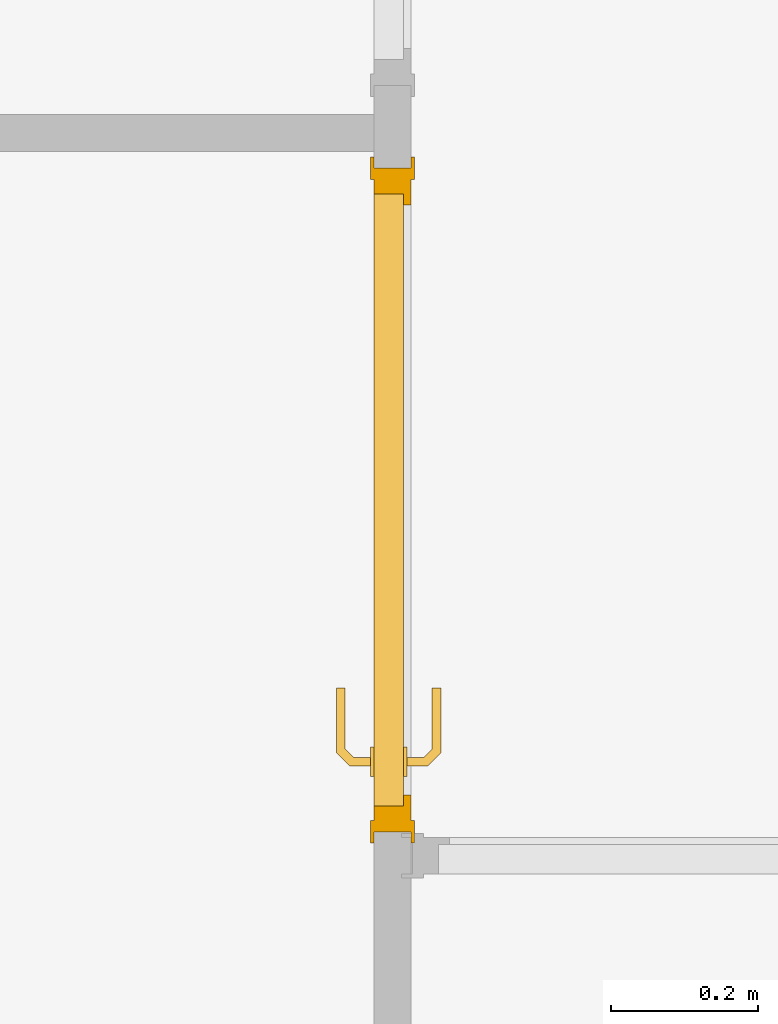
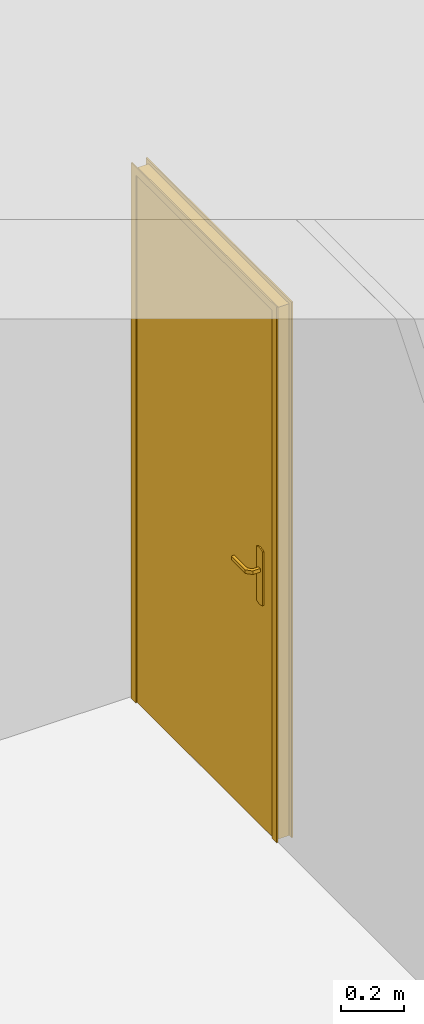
# One storey, part 8 of 14: 1 door.
"""IFC2X3 building model written with IfcOpenShell, lengths in millimetres."""

from ifc_helpers import new_model, entity, si_unit, converted_unit, direction, frame, origin, origin_with_axes, place, context, project, spatial, faceted_brep, element, save


model = new_model("IFC2X3")

# Units and contexts
model_context = context("Model", 3, precision=1e-05, world=origin(), true_north=direction((0.0, 1.0, 0.0)))
ifc_project = project(units=[si_unit("LENGTHUNIT", "METRE", prefix="MILLI"), si_unit("AREAUNIT", "SQUARE_METRE"), si_unit("VOLUMEUNIT", "CUBIC_METRE"), converted_unit("PLANEANGLEUNIT", "DEGREE", entity("IfcPlaneAngleMeasure", 0.01745), si_unit("PLANEANGLEUNIT", "RADIAN"), dimensions=[0, 0, 0, 0, 0, 0, 0]), si_unit("SOLIDANGLEUNIT", "STERADIAN"), si_unit("MASSUNIT", "GRAM"), si_unit("TIMEUNIT", "SECOND"), si_unit("THERMODYNAMICTEMPERATUREUNIT", "DEGREE_CELSIUS"), si_unit("LUMINOUSINTENSITYUNIT", "LUMEN")], contexts=[model_context])

# Site, building, storey
placement = place(None, origin_with_axes())
site_placement = place(placement, frame((11636.08881703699, 2815.7442167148, 4.768371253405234e-06), z_axis=(0.0, 0.0, 1.0), x_axis=(1.0, 0.0, 0.0)))
site = spatial("IfcSite", under=ifc_project, at=site_placement, Name="Surface", CompositionType="ELEMENT")
building_placement = place(placement, origin_with_axes())
building = spatial("IfcBuilding", under=site, at=building_placement, Name="Default Building", CompositionType="ELEMENT")
storey_placement = place(building_placement, origin_with_axes())
storey = spatial("IfcBuildingStorey", under=building, at=storey_placement, Name="Plan étage", CompositionType="ELEMENT", Elevation=0.0)

# Door
door_placement = place(storey_placement, frame((11636.08881703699, 2815.7442167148, 4.768371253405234e-06), z_axis=(0.0, 0.0, 1.0), x_axis=(1.0, 0.0, 0.0)))
element("IfcDoor", 1, at=door_placement, inside=storey, Name="IfcDoor - Int. Simple:PP (0.83m x 2.04m)", context=model_context, shape_type="Brep", body=[
    faceted_brep([(-1711.088818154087, 486.7557809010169, 2740.000042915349), (-1706.088819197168, 456.755779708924, 2740.000042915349), (-1711.088818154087, 456.755779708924, 2740.000042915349), (-1706.088819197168, 486.7557809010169, 2740.000042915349), (-1711.088818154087, 1356.755785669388, 2740.000042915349), (-1706.088819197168, 1386.755786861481, 2740.000042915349), (-1706.088819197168, 1356.755785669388, 2740.000042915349), (-1711.088818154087, 1386.755786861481, 2740.000042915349), (-1711.088818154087, 486.7557809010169, 4799.99998569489), (-1706.088819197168, 1356.755785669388, 4799.99998569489), (-1706.088819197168, 486.7557809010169, 4799.99998569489), (-1711.088818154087, 1356.755785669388, 4799.99998569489), (-1706.088819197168, 456.755779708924, 4829.99995708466), (-1711.088818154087, 1386.755786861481, 4829.99995708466), (-1711.088818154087, 456.755779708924, 4829.99995708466), (-1706.088819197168, 1386.755786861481, 4829.99995708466), (-1656.08881845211, 486.7557809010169, 4799.99998569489), (-1651.088819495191, 1356.755785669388, 4799.99998569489), (-1651.088819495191, 486.7557809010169, 4799.99998569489), (-1656.08881845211, 1356.755785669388, 4799.99998569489), (-1651.088819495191, 456.755779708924, 4829.99995708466), (-1656.08881845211, 1386.755786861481, 4829.99995708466), (-1656.08881845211, 456.755779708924, 4829.99995708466), (-1651.088819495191, 1386.755786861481, 4829.99995708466), (-1656.08881845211, 1386.755786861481, 2740.000042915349), (-1651.088819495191, 1386.755786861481, 2740.000042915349), (-1651.088819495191, 1356.755785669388, 2740.000042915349), (-1656.08881845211, 1356.755785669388, 2740.000042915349), (-1656.08881845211, 486.7557809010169, 2740.000042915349), (-1651.088819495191, 486.7557809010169, 2740.000042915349), (-1651.088819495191, 456.755779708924, 2740.000042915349), (-1656.08881845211, 456.755779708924, 2740.000042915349), (-1706.088819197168, 506.7557916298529, 4780.000004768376), (-1666.088819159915, 1336.755774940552, 4780.000004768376), (-1666.088819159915, 506.7557916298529, 4780.000004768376), (-1706.088819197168, 1336.755774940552, 4780.000004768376), (-1666.088819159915, 521.7557773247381, 4765.000019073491), (-1656.08881845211, 1321.755789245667, 4765.000019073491), (-1656.08881845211, 521.7557773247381, 4765.000019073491), (-1666.088819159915, 1321.755789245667, 4765.000019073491), (-1656.08881845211, 471.7557952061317, 4814.999971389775), (-1706.088819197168, 1371.755771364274, 4814.999971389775), (-1706.088819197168, 471.7557952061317, 4814.999971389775), (-1656.08881845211, 1371.755771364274, 4814.999971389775), (-1666.088819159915, 1336.755774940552, 2740.000042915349), (-1706.088819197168, 1336.755774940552, 2740.000042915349), (-1656.08881845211, 1321.755789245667, 2740.000042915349), (-1666.088819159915, 1321.755789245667, 2740.000042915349), (-1656.08881845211, 1371.755771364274, 2740.000042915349), (-1706.088819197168, 1371.755771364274, 2740.000042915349), (-1706.088819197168, 506.7557916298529, 2740.000042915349), (-1706.088819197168, 471.7557952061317, 2740.000042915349), (-1666.088819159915, 506.7557916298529, 2740.000042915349), (-1666.088819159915, 521.7557773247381, 2740.000042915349), (-1656.08881845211, 521.7557773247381, 2740.000042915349), (-1656.08881845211, 471.7557952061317, 2740.000042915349), (-1666.088819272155, 506.7557916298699, 4779.999980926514), (-1706.088818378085, 506.7557916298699, 2740.000019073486), (-1666.088819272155, 506.7557916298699, 2740.000019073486), (-1706.088818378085, 506.7557916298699, 4779.999980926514), (-1706.088818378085, 1336.755774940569, 2740.000019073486), (-1666.088819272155, 1336.755774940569, 2740.000019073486), (-1706.088818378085, 1336.755774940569, 4779.999980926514), (-1666.088819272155, 1336.755774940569, 4779.999980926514), (-1623.14362793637, 582.5946902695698, 3732.219558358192), (-1621.118336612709, 624.698127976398, 3732.121313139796), (-1619.093037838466, 580.9168772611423, 3732.219558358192), (-1615.118331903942, 619.2009871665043, 3732.999999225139), (-1627.118333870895, 625.5213035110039, 3732.999999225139), (-1623.14362793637, 666.801565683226, 3732.219558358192), (-1619.093037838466, 666.801565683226, 3732.219558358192), (-1627.118333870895, 666.801565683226, 3732.999999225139), (-1627.118333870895, 584.2410655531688, 3732.999999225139), (-1615.118331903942, 579.2705019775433, 3732.999999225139), (-1615.118331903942, 666.801565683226, 3732.999999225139), (-1615.118331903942, 579.2705019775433, 3747.000001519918), (-1615.118331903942, 619.2009890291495, 3747.000001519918), (-1615.118331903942, 666.801565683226, 3747.000001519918), (-1623.14362793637, 666.801565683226, 3747.780442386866), (-1621.118336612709, 624.698127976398, 3747.878685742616), (-1619.093037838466, 666.801565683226, 3747.780442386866), (-1627.118333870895, 625.5213165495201, 3747.000001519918), (-1623.14362793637, 582.5946902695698, 3747.780442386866), (-1619.093037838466, 580.9168772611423, 3747.780442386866), (-1627.118333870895, 666.801565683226, 3747.000001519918), (-1627.118333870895, 584.2410655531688, 3747.000001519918), (-1636.957239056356, 568.7810828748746, 3732.219558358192), (-1638.60361247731, 572.7557850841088, 3732.999999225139), (-1633.633050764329, 560.7557831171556, 3732.999999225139), (-1635.279427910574, 564.7304853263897, 3732.219558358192), (-1633.633050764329, 560.7557831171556, 3747.000001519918), (-1635.279427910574, 564.7304853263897, 3747.780442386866), (-1638.60361247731, 572.7557850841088, 3747.000001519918), (-1636.957239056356, 568.7810828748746, 3747.780442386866), (-1661.088818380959, 568.7810828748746, 3732.219558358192), (-1661.088818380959, 572.7557850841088, 3732.999999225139), (-1661.088818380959, 564.7304853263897, 3732.219558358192), (-1661.088818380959, 560.7557831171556, 3732.999999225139), (-1661.088818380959, 560.7557831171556, 3747.000001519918), (-1661.088818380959, 564.7304853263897, 3747.780442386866), (-1661.088818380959, 568.7810828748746, 3747.780442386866), (-1661.088818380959, 572.7557850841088, 3747.000001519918), (-1757.116980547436, 666.7744232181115, 3732.999999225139), (-1757.116980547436, 579.1329940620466, 3747.000001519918), (-1757.116980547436, 666.7744232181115, 3747.000001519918), (-1757.116980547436, 619.0634727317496, 3732.999999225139), (-1757.116980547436, 579.1329940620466, 3732.999999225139), (-1749.091684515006, 666.7744232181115, 3732.219558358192), (-1751.116983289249, 624.6158027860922, 3732.121313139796), (-1753.142274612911, 666.7744232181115, 3732.219558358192), (-1745.116978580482, 625.4389894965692, 3732.999999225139), (-1749.091684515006, 582.4571804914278, 3732.219558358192), (-1753.142274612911, 580.7793693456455, 3732.219558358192), (-1745.116978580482, 666.7744232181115, 3732.999999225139), (-1745.116978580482, 584.1035557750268, 3732.999999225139), (-1745.116978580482, 666.7744232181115, 3747.000001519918), (-1745.116978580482, 625.4389894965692, 3747.000001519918), (-1745.116978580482, 584.1035557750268, 3747.000001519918), (-1749.091684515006, 582.4571804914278, 3747.780442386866), (-1751.116975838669, 624.6158027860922, 3747.878685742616), (-1753.142274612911, 580.7793693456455, 3747.780442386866), (-1757.116980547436, 619.0634801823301, 3747.000001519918), (-1749.091684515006, 666.7744232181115, 3747.780442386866), (-1753.142274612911, 666.7744232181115, 3747.780442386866), (-1738.739769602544, 560.7557831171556, 3732.999999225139), (-1738.739769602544, 560.7557831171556, 3747.000001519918), (-1737.093396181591, 564.7304853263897, 3732.219558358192), (-1733.769207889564, 572.7557850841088, 3732.999999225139), (-1735.415581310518, 568.7810828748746, 3732.219558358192), (-1733.769207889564, 572.7557850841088, 3747.000001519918), (-1735.415581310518, 568.7810828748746, 3747.780442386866), (-1737.093396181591, 564.7304853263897, 3747.780442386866), (-1711.088819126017, 560.7557831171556, 3732.999999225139), (-1711.088819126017, 560.7557831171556, 3747.000001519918), (-1711.088819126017, 564.7304853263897, 3732.219558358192), (-1711.088819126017, 568.7810828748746, 3732.219558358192), (-1711.088819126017, 572.7557850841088, 3732.999999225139), (-1711.088819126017, 572.7557850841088, 3747.000001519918), (-1711.088819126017, 568.7810828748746, 3747.780442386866), (-1711.088819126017, 564.7304853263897, 3747.780442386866), (-1661.088818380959, 586.7557836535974, 3610.000003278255), (-1666.088819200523, 586.7557836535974, 3819.999996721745), (-1661.088818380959, 586.7557836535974, 3819.999996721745), (-1666.088819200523, 586.7557836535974, 3610.000003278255), (-1666.088819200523, 577.1085446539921, 3606.003981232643), (-1661.088818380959, 577.1085446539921, 3606.003981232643), (-1661.088818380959, 566.7557841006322, 3604.641016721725), (-1666.088819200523, 566.7557841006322, 3604.641016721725), (-1661.088818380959, 556.403019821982, 3606.003981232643), (-1666.088819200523, 556.403019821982, 3606.003981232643), (-1661.088818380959, 546.7557845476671, 3610.000003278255), (-1666.088819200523, 546.7557845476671, 3610.000003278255), (-1666.088819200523, 546.7557845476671, 3819.999996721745), (-1661.088818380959, 546.7557845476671, 3819.999996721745), (-1666.088819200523, 556.403019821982, 3823.996018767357), (-1661.088818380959, 556.403019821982, 3823.996018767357), (-1661.088818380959, 566.7557841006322, 3825.358983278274), (-1666.088819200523, 566.7557841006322, 3825.358983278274), (-1661.088818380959, 577.1085446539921, 3823.996018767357), (-1666.088819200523, 577.1085446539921, 3823.996018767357), (-1706.088818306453, 546.7557845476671, 3610.000003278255), (-1711.088819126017, 546.7557845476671, 3819.999996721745), (-1711.088819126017, 546.7557845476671, 3610.000003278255), (-1706.088818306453, 546.7557845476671, 3819.999996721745), (-1711.088819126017, 556.403019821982, 3823.996018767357), (-1706.088818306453, 556.403019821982, 3823.996018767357), (-1706.088818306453, 566.7557841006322, 3825.358983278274), (-1711.088819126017, 566.7557841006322, 3825.358983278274), (-1706.088818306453, 577.1085446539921, 3823.996018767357), (-1711.088819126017, 577.1085446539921, 3823.996018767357), (-1706.088818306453, 586.7557836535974, 3819.999996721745), (-1711.088819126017, 586.7557836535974, 3819.999996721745), (-1706.088818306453, 586.7557836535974, 3610.000003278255), (-1711.088819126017, 586.7557836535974, 3610.000003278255), (-1711.088819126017, 577.1085446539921, 3606.003981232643), (-1706.088818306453, 577.1085446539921, 3606.003981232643), (-1706.088818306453, 566.7557841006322, 3604.641016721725), (-1711.088819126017, 566.7557841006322, 3604.641016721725), (-1706.088818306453, 556.403019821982, 3606.003981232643), (-1711.088819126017, 556.403019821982, 3606.003981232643)], [[[0, 1, 2]], [[0, 3, 1]], [[4, 5, 6]], [[4, 7, 5]], [[8, 9, 10]], [[8, 11, 9]], [[12, 13, 14]], [[12, 15, 13]], [[15, 7, 13]], [[15, 5, 7]], [[11, 6, 9]], [[11, 4, 6]], [[0, 10, 3]], [[0, 8, 10]], [[12, 10, 15]], [[1, 10, 12]], [[10, 1, 3]], [[9, 15, 10]], [[6, 15, 9]], [[15, 6, 5]], [[1, 14, 2]], [[1, 12, 14]], [[13, 11, 14]], [[7, 11, 13]], [[11, 7, 4]], [[8, 14, 11]], [[0, 14, 8]], [[14, 0, 2]], [[16, 17, 18]], [[16, 19, 17]], [[20, 21, 22]], [[20, 23, 21]], [[23, 24, 21]], [[23, 25, 24]], [[19, 26, 17]], [[19, 27, 26]], [[27, 25, 26]], [[27, 24, 25]], [[28, 18, 29]], [[28, 16, 18]], [[20, 18, 23]], [[30, 18, 20]], [[18, 30, 29]], [[17, 23, 18]], [[26, 23, 17]], [[23, 26, 25]], [[30, 22, 31]], [[30, 20, 22]], [[21, 19, 22]], [[24, 19, 21]], [[19, 24, 27]], [[16, 22, 19]], [[28, 22, 16]], [[22, 28, 31]], [[28, 30, 31]], [[28, 29, 30]], [[32, 33, 34]], [[32, 35, 33]], [[36, 37, 38]], [[36, 39, 37]], [[40, 41, 42]], [[40, 43, 41]], [[35, 44, 33]], [[35, 45, 44]], [[39, 46, 37]], [[39, 47, 46]], [[47, 48, 46]], [[44, 48, 47]], [[45, 48, 44]], [[48, 45, 49]], [[43, 49, 41]], [[43, 48, 49]], [[41, 35, 42]], [[49, 35, 41]], [[35, 49, 45]], [[32, 42, 35]], [[50, 42, 32]], [[42, 50, 51]], [[50, 34, 52]], [[50, 32, 34]], [[33, 39, 34]], [[44, 39, 33]], [[39, 44, 47]], [[36, 34, 39]], [[53, 34, 36]], [[34, 53, 52]], [[53, 38, 54]], [[53, 36, 38]], [[40, 38, 43]], [[55, 38, 40]], [[38, 55, 54]], [[37, 43, 38]], [[46, 43, 37]], [[43, 46, 48]], [[55, 42, 51]], [[55, 40, 42]], [[54, 52, 53]], [[55, 52, 54]], [[55, 50, 52]], [[50, 55, 51]], [[56, 57, 58]], [[56, 59, 57]], [[58, 60, 61]], [[58, 57, 60]], [[61, 62, 63]], [[61, 60, 62]], [[63, 59, 56]], [[63, 62, 59]], [[59, 60, 57]], [[59, 62, 60]], [[56, 61, 63]], [[56, 58, 61]], [[64, 65, 66]], [[65, 67, 66]], [[65, 68, 69]], [[65, 69, 70]], [[71, 69, 68]], [[68, 64, 72]], [[64, 68, 65]], [[67, 73, 66]], [[67, 70, 74]], [[65, 70, 67]], [[67, 75, 73]], [[74, 75, 67]], [[74, 76, 75]], [[76, 74, 77]], [[78, 79, 80]], [[79, 81, 82]], [[79, 82, 83]], [[79, 83, 76]], [[76, 83, 75]], [[80, 76, 77]], [[78, 84, 81]], [[82, 81, 85]], [[80, 79, 76]], [[79, 78, 81]], [[81, 72, 85]], [[84, 72, 81]], [[84, 68, 72]], [[68, 84, 71]], [[70, 77, 74]], [[70, 80, 77]], [[69, 80, 70]], [[69, 78, 80]], [[69, 84, 78]], [[84, 69, 71]], [[86, 72, 64]], [[86, 87, 72]], [[88, 66, 73]], [[88, 89, 66]], [[73, 90, 88]], [[73, 75, 90]], [[90, 83, 91]], [[90, 75, 83]], [[92, 82, 85]], [[92, 93, 82]], [[85, 87, 92]], [[85, 72, 87]], [[94, 87, 86]], [[94, 95, 87]], [[66, 86, 64]], [[86, 66, 89]], [[89, 94, 86]], [[94, 89, 96]], [[97, 89, 88]], [[97, 96, 89]], [[90, 97, 88]], [[90, 98, 97]], [[98, 91, 99]], [[98, 90, 91]], [[91, 100, 99]], [[91, 93, 100]], [[83, 93, 91]], [[93, 83, 82]], [[100, 92, 101]], [[100, 93, 92]], [[92, 95, 101]], [[92, 87, 95]], [[98, 96, 97]], [[99, 96, 98]], [[99, 94, 96]], [[100, 94, 99]], [[100, 95, 94]], [[95, 100, 101]], [[102, 103, 104]], [[105, 103, 102]], [[103, 105, 106]], [[107, 108, 109]], [[108, 110, 111]], [[108, 111, 112]], [[108, 112, 105]], [[105, 112, 106]], [[109, 105, 102]], [[107, 113, 110]], [[111, 110, 114]], [[109, 108, 105]], [[108, 107, 110]], [[115, 114, 113]], [[116, 114, 115]], [[114, 116, 117]], [[118, 119, 120]], [[119, 121, 120]], [[119, 116, 122]], [[119, 122, 123]], [[115, 122, 116]], [[116, 118, 117]], [[118, 116, 119]], [[121, 103, 120]], [[121, 123, 104]], [[119, 123, 121]], [[113, 122, 115]], [[107, 122, 113]], [[107, 123, 122]], [[109, 123, 107]], [[109, 104, 123]], [[104, 109, 102]], [[103, 124, 125]], [[103, 106, 124]], [[126, 106, 112]], [[126, 124, 106]], [[127, 111, 114]], [[127, 128, 111]], [[114, 129, 127]], [[114, 117, 129]], [[130, 117, 118]], [[130, 129, 117]], [[125, 120, 103]], [[125, 131, 120]], [[125, 132, 133]], [[125, 124, 132]], [[132, 126, 134]], [[132, 124, 126]], [[126, 128, 134]], [[112, 128, 126]], [[128, 112, 111]], [[134, 128, 135]], [[135, 127, 136]], [[135, 128, 127]], [[127, 137, 136]], [[127, 129, 137]], [[138, 129, 130]], [[138, 137, 129]], [[120, 130, 118]], [[131, 130, 120]], [[131, 138, 130]], [[138, 131, 139]], [[133, 131, 125]], [[133, 139, 131]], [[134, 133, 132]], [[134, 139, 133]], [[135, 139, 134]], [[135, 138, 139]], [[135, 137, 138]], [[137, 135, 136]], [[140, 141, 142]], [[140, 143, 141]], [[144, 140, 145]], [[144, 143, 140]], [[144, 146, 147]], [[144, 145, 146]], [[147, 148, 149]], [[147, 146, 148]], [[149, 150, 151]], [[149, 148, 150]], [[150, 152, 151]], [[150, 153, 152]], [[154, 153, 155]], [[154, 152, 153]], [[154, 156, 157]], [[154, 155, 156]], [[157, 158, 159]], [[157, 156, 158]], [[159, 142, 141]], [[159, 158, 142]], [[146, 150, 148]], [[146, 153, 150]], [[145, 153, 146]], [[145, 155, 153]], [[140, 155, 145]], [[140, 156, 155]], [[140, 158, 156]], [[158, 140, 142]], [[159, 154, 157]], [[141, 154, 159]], [[141, 152, 154]], [[141, 151, 152]], [[143, 151, 141]], [[144, 151, 143]], [[144, 149, 151]], [[149, 144, 147]], [[160, 161, 162]], [[160, 163, 161]], [[164, 163, 165]], [[164, 161, 163]], [[164, 166, 167]], [[164, 165, 166]], [[167, 168, 169]], [[167, 166, 168]], [[169, 170, 171]], [[169, 168, 170]], [[172, 171, 170]], [[172, 173, 171]], [[174, 172, 175]], [[174, 173, 172]], [[174, 176, 177]], [[174, 175, 176]], [[177, 178, 179]], [[177, 176, 178]], [[179, 160, 162]], [[179, 178, 160]], [[175, 178, 176]], [[172, 178, 175]], [[172, 160, 178]], [[170, 160, 172]], [[170, 163, 160]], [[168, 163, 170]], [[168, 165, 163]], [[165, 168, 166]], [[169, 164, 167]], [[171, 164, 169]], [[171, 161, 164]], [[171, 162, 161]], [[173, 162, 171]], [[174, 162, 173]], [[174, 179, 162]], [[179, 174, 177]]]),
])

save(model, "model.ifc")
